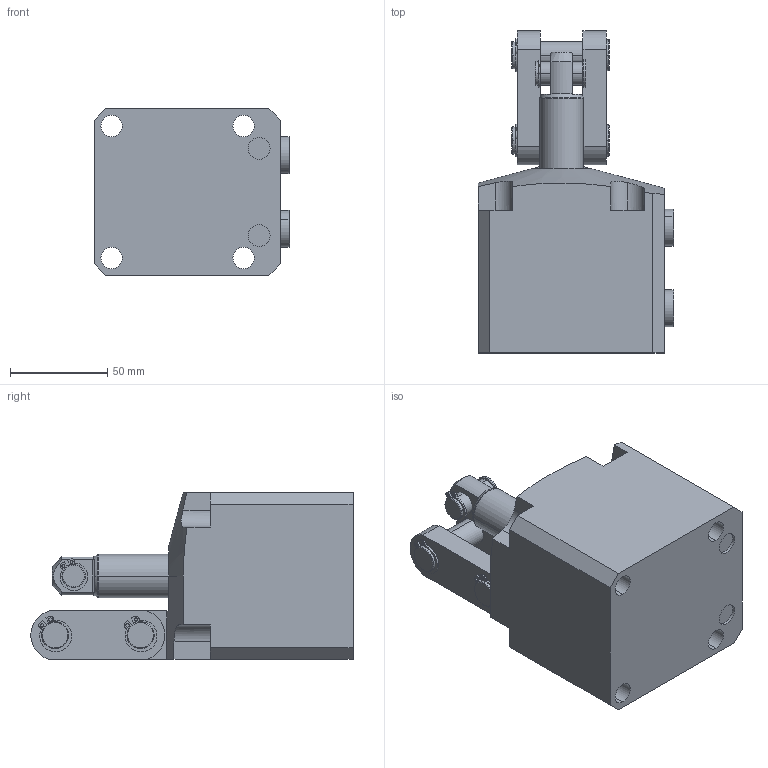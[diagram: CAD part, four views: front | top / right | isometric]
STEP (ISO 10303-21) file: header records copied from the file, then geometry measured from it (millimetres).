
FILE_DESCRIPTION(/* description */ (''),/* implementation_level */ '2;1');
FILE_NAME(/* name */ 'BPC16-R.stp',/* time_stamp */ '2025-01-05T09:58:06+08:00',/* author */ (''),/* organization */ (''),/* preprocessor_version */ 'ST-DEVELOPER v16.7',/* originating_system */ 'SIEMENS PLM Software NX 12.0',/* authorisation */ '');
FILE_SCHEMA (('AUTOMOTIVE_DESIGN { 1 0 10303 214 3 1 1 1 }'));
Length unit declared in the file: millimetre
Products named in the file (5): BPC16-R-01; BPC16-R-02; BPC16-R-04; BPC16-R-03; BPC16-R_stp
Assembly tree (5 placements, depth 2):
  BPC16-R_stp
    BPC16-R-03
    BPC16-R-04  x2
    BPC16-R-02
    BPC16-R-01
Bounding box: 100.8 x 165.95 x 86 mm (x, y, z)
Volume: 766022.1 mm3; surface area: 85338.1 mm2
Topology: 5 solids, 5 shells, 247 faces, 593 edges, 380 vertices
Faces by surface type: cylinder 110, plane 100, torus 20, cone 17
Entity records: 6896 total; most frequent: CARTESIAN_POINT 1271, DIRECTION 1235, ORIENTED_EDGE 1094, EDGE_CURVE 547, AXIS2_PLACEMENT_3D 483, VERTEX_POINT 352, LINE 269, VECTOR 269
